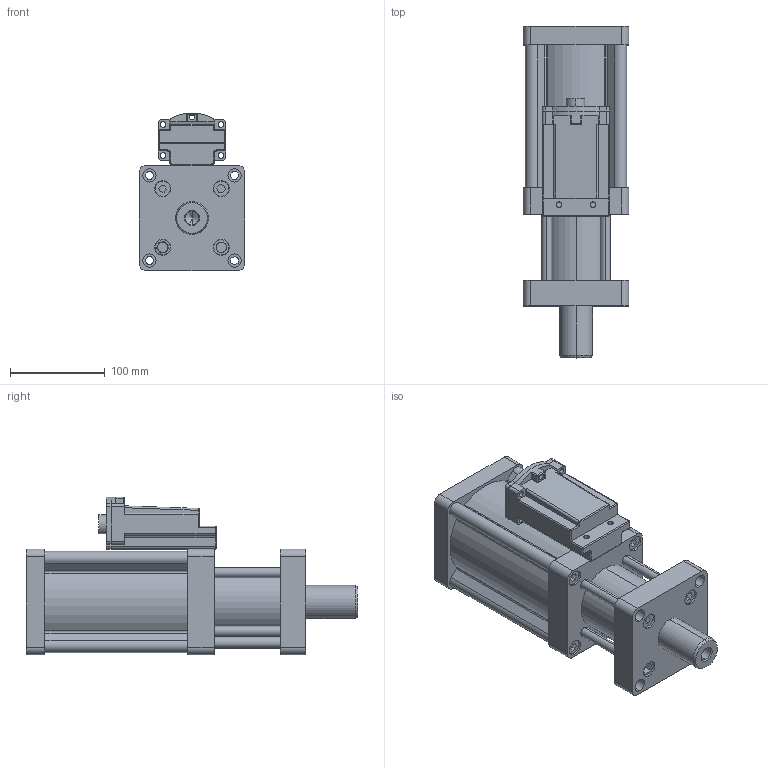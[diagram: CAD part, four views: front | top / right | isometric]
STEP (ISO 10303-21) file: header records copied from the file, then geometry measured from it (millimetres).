
FILE_DESCRIPTION (( 'STEP AP203' ), '1' );
FILE_NAME ('MPTC-63-10-3T.STEP', '2016-03-15T08:01:37', ( 'WIN' ), ( '' ), 'SwSTEP 2.0', 'SolidWorks 2014', '' );
FILE_SCHEMA (( 'CONFIG_CONTROL_DESIGN' ));
Length unit declared in the file: millimetre
Products named in the file (1): MPTC-63-10-3T
Bounding box: 112 x 351 x 166.97 mm (x, y, z)
Surface area: 368503.6 mm2 (no closed solid volume)
Topology: 0 solids, 6 shells, 463 faces, 1154 edges, 740 vertices
Faces by surface type: cylinder 229, plane 195, cone 24, sphere 8, torus 5, bspline 2
Entity records: 14302 total; most frequent: CARTESIAN_POINT 2805, DIRECTION 2499, ORIENTED_EDGE 2253, EDGE_CURVE 1138, AXIS2_PLACEMENT_3D 926, VERTEX_POINT 740, LINE 647, VECTOR 647
